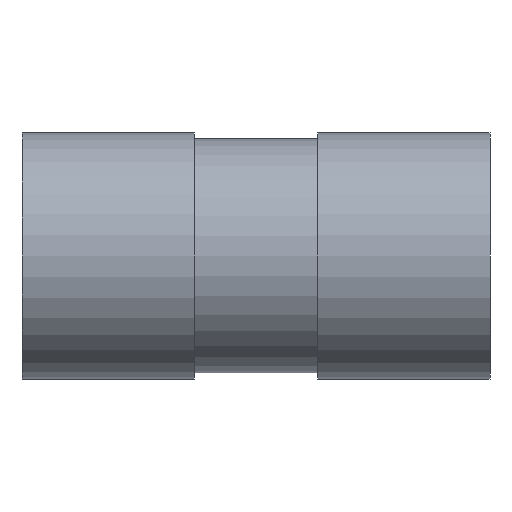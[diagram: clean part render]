
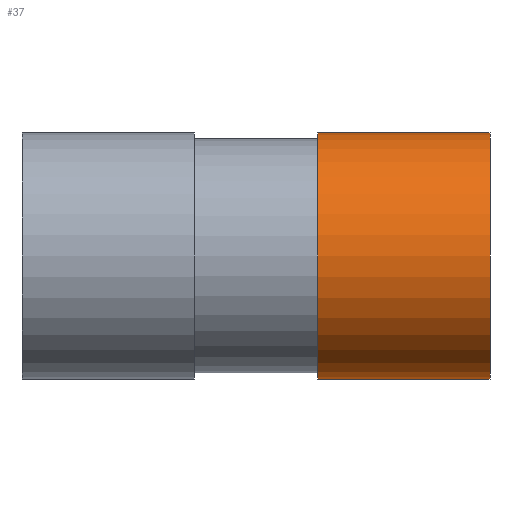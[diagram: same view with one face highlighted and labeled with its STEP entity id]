
A CAD part, front view. The second image highlights one B-rep face of the part: STEP entity #37.
In plain terms, the highlighted cylindrical face has radius 20 mm (diameter 40 mm), a partial arc.
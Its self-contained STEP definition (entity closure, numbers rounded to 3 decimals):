
#37 = ADVANCED_FACE ( 'NONE', ( #2712 ), #2384, .T. ) ;
#133 = CARTESIAN_POINT ( 'NONE',  ( 10., 0., 0. ) ) ;
#148 = VECTOR ( 'NONE', #1276, 1000. ) ;
#151 = VERTEX_POINT ( 'NONE', #690 ) ;
#174 = CARTESIAN_POINT ( 'NONE',  ( -66.585, 0., -20. ) ) ;
#434 = DIRECTION ( 'NONE',  ( 0., 0., 1. ) ) ;
#450 = LINE ( 'NONE', #2583, #148 ) ;
#462 = ORIENTED_EDGE ( 'NONE', *, *, #1801, .F. ) ;
#474 = EDGE_CURVE ( 'NONE', #1369, #1677, #450, .T. ) ;
#618 = ORIENTED_EDGE ( 'NONE', *, *, #474, .T. ) ;
#662 = DIRECTION ( 'NONE',  ( 0., 0., 1. ) ) ;
#690 = CARTESIAN_POINT ( 'NONE',  ( 38., 0., -20. ) ) ;
#748 = ORIENTED_EDGE ( 'NONE', *, *, #2971, .T. ) ;
#749 = EDGE_CURVE ( 'NONE', #1536, #1677, #1321, .T. ) ;
#853 = AXIS2_PLACEMENT_3D ( 'NONE', #854, #1587, #1850 ) ;
#854 = CARTESIAN_POINT ( 'NONE',  ( 38., 0., 0. ) ) ;
#930 = LINE ( 'NONE', #174, #1211 ) ;
#1211 = VECTOR ( 'NONE', #3350, 1000. ) ;
#1276 = DIRECTION ( 'NONE',  ( -1., 0., 0. ) ) ;
#1321 = CIRCLE ( 'NONE', #2092, 20. ) ;
#1364 = CARTESIAN_POINT ( 'NONE',  ( 10., 0., -20. ) ) ;
#1369 = VERTEX_POINT ( 'NONE', #2879 ) ;
#1536 = VERTEX_POINT ( 'NONE', #1364 ) ;
#1587 = DIRECTION ( 'NONE',  ( -1., 0., 0. ) ) ;
#1677 = VERTEX_POINT ( 'NONE', #2685 ) ;
#1801 = EDGE_CURVE ( 'NONE', #151, #1536, #930, .T. ) ;
#1850 = DIRECTION ( 'NONE',  ( 0., 0., 1. ) ) ;
#2092 = AXIS2_PLACEMENT_3D ( 'NONE', #133, #2162, #434 ) ;
#2162 = DIRECTION ( 'NONE',  ( -1., 0., 0. ) ) ;
#2384 = CYLINDRICAL_SURFACE ( 'NONE', #3155, 20. ) ;
#2583 = CARTESIAN_POINT ( 'NONE',  ( -66.585, 0., 20. ) ) ;
#2685 = CARTESIAN_POINT ( 'NONE',  ( 10., 0., 20. ) ) ;
#2695 = CARTESIAN_POINT ( 'NONE',  ( -66.585, 0., 0. ) ) ;
#2712 = FACE_OUTER_BOUND ( 'NONE', #2797, .T. ) ;
#2741 = DIRECTION ( 'NONE',  ( -1., 0., 0. ) ) ;
#2793 = CIRCLE ( 'NONE', #853, 20. ) ;
#2797 = EDGE_LOOP ( 'NONE', ( #462, #748, #618, #3110 ) ) ;
#2879 = CARTESIAN_POINT ( 'NONE',  ( 38., 0., 20. ) ) ;
#2971 = EDGE_CURVE ( 'NONE', #151, #1369, #2793, .T. ) ;
#3110 = ORIENTED_EDGE ( 'NONE', *, *, #749, .F. ) ;
#3155 = AXIS2_PLACEMENT_3D ( 'NONE', #2695, #2741, #662 ) ;
#3350 = DIRECTION ( 'NONE',  ( -1., 0., 0. ) ) ;
